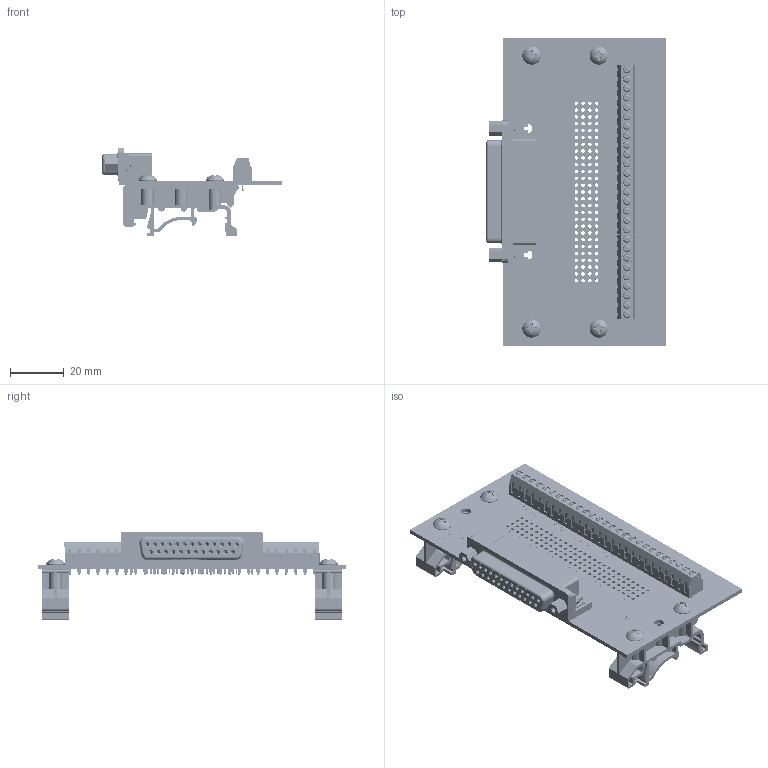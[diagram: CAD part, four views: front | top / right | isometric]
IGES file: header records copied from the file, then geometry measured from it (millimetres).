
Start section: SolidWorks IGES file using analytic representation for surfaces
Global section: file name: C:\Users\Jonny\Documents\Winford Engineering Jobs\BRK25\BRK25F\brk25f-r-din_rev_b.igs; native system: SolidWorks 2017; preprocessor: SolidWorks 2017; author: Jonny; date: 170827.150125; units: inch
Bounding box: 66.71 x 114.3 x 33.1 mm (x, y, z)
Volume: 26913.8 mm3; surface area: 43383 mm2
Topology: 347 solids, 347 shells, 12293 faces, 32181 edges, 20868 vertices
Faces by surface type: plane 6195, bspline 3409, revolution 2689
